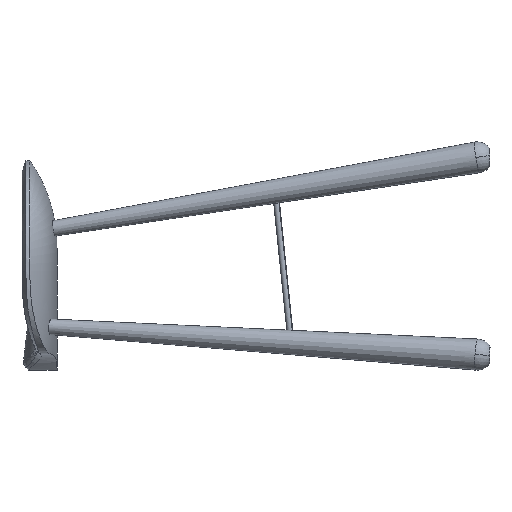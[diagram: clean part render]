
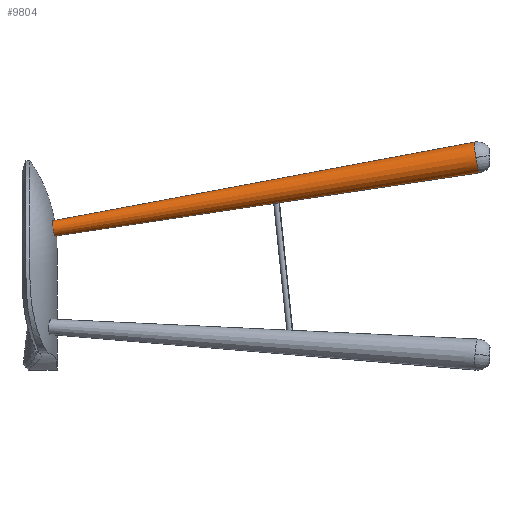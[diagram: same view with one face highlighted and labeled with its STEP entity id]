
A CAD part, left-side view. The second image highlights one B-rep face of the part: STEP entity #9804.
In plain terms, the highlighted conical face has half-angle 1.041 degrees and reference radius 25.396 mm.
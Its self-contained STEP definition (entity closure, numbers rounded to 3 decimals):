
#343 = CARTESIAN_POINT ( 'NONE',  ( -99.477, 4.852, 220.756 ) ) ;
#353 = ORIENTED_EDGE ( 'NONE', *, *, #4529, .T. ) ;
#621 = CARTESIAN_POINT ( 'NONE',  ( -96.606, 4.406, 219.15 ) ) ;
#689 = CARTESIAN_POINT ( 'NONE',  ( -99.458, 8.23, 240.612 ) ) ;
#766 = CARTESIAN_POINT ( 'NONE',  ( -97.352, 4.51, 219.492 ) ) ;
#843 = CARTESIAN_POINT ( 'NONE',  ( -95.02, 8.261, 242.81 ) ) ;
#1077 = EDGE_CURVE ( 'NONE', #7845, #1638, #4503, .T. ) ;
#1343 = CARTESIAN_POINT ( 'NONE',  ( -129.319, -679.325, 371.446 ) ) ;
#1437 = EDGE_LOOP ( 'NONE', ( #9991, #7982, #8868, #353, #2449 ) ) ;
#1488 = CARTESIAN_POINT ( 'NONE',  ( -101.249, 8.061, 238.91 ) ) ;
#1638 = VERTEX_POINT ( 'NONE', #1343 ) ;
#1660 = LINE ( 'NONE', #2074, #11224 ) ;
#1753 = CARTESIAN_POINT ( 'NONE',  ( -102.043, 5.444, 223.387 ) ) ;
#1952 = DIRECTION ( 'NONE',  ( 0., -0.165, -0.986 ) ) ;
#2074 = CARTESIAN_POINT ( 'NONE',  ( -129.319, -679.325, 371.446 ) ) ;
#2207 = LINE ( 'NONE', #10236, #8845 ) ;
#2449 = ORIENTED_EDGE ( 'NONE', *, *, #1077, .T. ) ;
#3065 = CARTESIAN_POINT ( 'NONE',  ( -92.574, 8.128, 243.264 ) ) ;
#3355 = CARTESIAN_POINT ( 'NONE',  ( -129.319, -683.525, 346.4 ) ) ;
#3777 = CARTESIAN_POINT ( 'NONE',  ( -98.42, 8.273, 241.31 ) ) ;
#3798 = CONICAL_SURFACE ( 'NONE', #6444, 25.396, 0.018 ) ;
#4052 = CARTESIAN_POINT ( 'NONE',  ( -102.027, 7.944, 237.935 ) ) ;
#4133 = CARTESIAN_POINT ( 'NONE',  ( -103.106, 7.71, 236.189 ) ) ;
#4200 = CARTESIAN_POINT ( 'NONE',  ( -104.393, 6.966, 231.466 ) ) ;
#4503 = CIRCLE ( 'NONE', #12836, 25.396 ) ;
#4529 = EDGE_CURVE ( 'NONE', #8735, #7845, #12644, .T. ) ;
#5168 = CARTESIAN_POINT ( 'NONE',  ( -91.747, 3.925, 218.265 ) ) ;
#5340 = CARTESIAN_POINT ( 'NONE',  ( -93.393, 8.184, 243.173 ) ) ;
#5412 = CARTESIAN_POINT ( 'NONE',  ( -95.831, 4.311, 218.882 ) ) ;
#5491 = CARTESIAN_POINT ( 'NONE',  ( -96.587, 8.297, 242.277 ) ) ;
#5796 = CARTESIAN_POINT ( 'NONE',  ( -95.04, 4.221, 218.652 ) ) ;
#6109 = CARTESIAN_POINT ( 'NONE',  ( -101.796, 5.375, 223.059 ) ) ;
#6373 = CARTESIAN_POINT ( 'NONE',  ( -101.267, 5.237, 222.426 ) ) ;
#6444 = AXIS2_PLACEMENT_3D ( 'NONE', #13704, #11137, #12335 ) ;
#6537 = CARTESIAN_POINT ( 'NONE',  ( -103.119, 5.799, 225.114 ) ) ;
#6612 = CARTESIAN_POINT ( 'NONE',  ( -95.811, 8.283, 242.562 ) ) ;
#6996 = CARTESIAN_POINT ( 'NONE',  ( -129.319, -683.525, 346.4 ) ) ;
#7525 = CARTESIAN_POINT ( 'NONE',  ( -104.31, 7.102, 232.278 ) ) ;
#7668 = CARTESIAN_POINT ( 'NONE',  ( -103.594, 6.019, 226.245 ) ) ;
#7724 = DIRECTION ( 'NONE',  ( 0.054, 0.985, -0.165 ) ) ;
#7750 = CARTESIAN_POINT ( 'NONE',  ( -101.778, 7.986, 238.269 ) ) ;
#7845 = VERTEX_POINT ( 'NONE', #10125 ) ;
#7982 = ORIENTED_EDGE ( 'NONE', *, *, #13373, .T. ) ;
#8037 = DIRECTION ( 'NONE',  ( -0.054, -0.988, 0.147 ) ) ;
#8364 = CARTESIAN_POINT ( 'NONE',  ( -104.068, 7.296, 233.477 ) ) ;
#8635 = CARTESIAN_POINT ( 'NONE',  ( -103.583, 7.541, 235.051 ) ) ;
#8708 = CARTESIAN_POINT ( 'NONE',  ( -100.97, 8.095, 239.215 ) ) ;
#8735 = VERTEX_POINT ( 'NONE', #14734 ) ;
#8774 = CARTESIAN_POINT ( 'NONE',  ( -104.314, 6.535, 229.005 ) ) ;
#8845 = VECTOR ( 'NONE', #8037, 1000. ) ;
#8868 = ORIENTED_EDGE ( 'NONE', *, *, #12178, .T. ) ;
#9088 = DIRECTION ( 'NONE',  ( 0., -0.165, -0.986 ) ) ;
#9167 = VERTEX_POINT ( 'NONE', #5168 ) ;
#9256 = VERTEX_POINT ( 'NONE', #11986 ) ;
#9268 = EDGE_CURVE ( 'NONE', #9256, #1638, #1660, .T. ) ;
#9287 = B_SPLINE_CURVE_WITH_KNOTS ( 'NONE', 3,
 ( #12217, #3065, #5340, #14400, #843, #6612, #5491, #11022, #12146, #3777, #689, #9887, #8708, #1488, #7750, #4052, #14323, #4133, #8635, #14470, #12300, #8364, #7525, #4200, #13246, #8774, #10941, #12072, #11179, #7668, #6537, #12895, #1753, #6109, #6373, #10654, #11096, #343, #9740, #9963, #766, #621, #5412, #5796, #13734, #14848, #10177, #13652 ),
 .UNSPECIFIED., .F., .F.,
 ( 4, 2, 2, 1, 2, 2, 2, 2, 2, 2, 2, 2, 2, 2, 2, 2, 2, 2, 2, 2, 2, 1, 2, 2, 4 ),
 ( 0.04, 0.042, 0.043, 0.045, 0.046, 0.047, 0.05, 0.051, 0.052, 0.055, 0.056, 0.057, 0.06, 0.062, 0.063, 0.064, 0.067, 0.068, 0.069, 0.072, 0.073, 0.074, 0.076, 0.077, 0.079 ),
 .UNSPECIFIED. ) ;
#9740 = CARTESIAN_POINT ( 'NONE',  ( -98.442, 4.676, 220.08 ) ) ;
#9804 = ADVANCED_FACE ( 'NONE', ( #13463 ), #3798, .T. ) ;
#9887 = CARTESIAN_POINT ( 'NONE',  ( -100.095, 8.185, 240.088 ) ) ;
#9963 = CARTESIAN_POINT ( 'NONE',  ( -98.082, 4.619, 219.871 ) ) ;
#9991 = ORIENTED_EDGE ( 'NONE', *, *, #9268, .F. ) ;
#10125 = CARTESIAN_POINT ( 'NONE',  ( -154.678, -682.181, 346.175 ) ) ;
#10177 = CARTESIAN_POINT ( 'NONE',  ( -92.581, 3.985, 218.255 ) ) ;
#10236 = CARTESIAN_POINT ( 'NONE',  ( -129.319, -687.726, 321.354 ) ) ;
#10654 = CARTESIAN_POINT ( 'NONE',  ( -100.989, 5.17, 222.125 ) ) ;
#10941 = CARTESIAN_POINT ( 'NONE',  ( -104.074, 6.315, 227.811 ) ) ;
#10964 = AXIS2_PLACEMENT_3D ( 'NONE', #3355, #7724, #1952 ) ;
#11022 = CARTESIAN_POINT ( 'NONE',  ( -97.332, 8.295, 241.92 ) ) ;
#11096 = CARTESIAN_POINT ( 'NONE',  ( -100.114, 4.975, 221.268 ) ) ;
#11137 = DIRECTION ( 'NONE',  ( -0.054, -0.985, 0.165 ) ) ;
#11179 = CARTESIAN_POINT ( 'NONE',  ( -103.735, 6.094, 226.634 ) ) ;
#11224 = VECTOR ( 'NONE', #12455, 1000. ) ;
#11986 = CARTESIAN_POINT ( 'NONE',  ( -91.75, 8.055, 243.277 ) ) ;
#12072 = CARTESIAN_POINT ( 'NONE',  ( -103.975, 6.242, 227.416 ) ) ;
#12146 = CARTESIAN_POINT ( 'NONE',  ( -98.061, 8.283, 241.526 ) ) ;
#12178 = EDGE_CURVE ( 'NONE', #9167, #8735, #2207, .T. ) ;
#12217 = CARTESIAN_POINT ( 'NONE',  ( -91.75, 8.055, 243.277 ) ) ;
#12300 = CARTESIAN_POINT ( 'NONE',  ( -103.967, 7.359, 233.873 ) ) ;
#12335 = DIRECTION ( 'NONE',  ( 0., -0.165, -0.986 ) ) ;
#12455 = DIRECTION ( 'NONE',  ( -0.054, -0.982, 0.183 ) ) ;
#12644 = CIRCLE ( 'NONE', #10964, 25.396 ) ;
#12836 = AXIS2_PLACEMENT_3D ( 'NONE', #6996, #14857, #9088 ) ;
#12895 = CARTESIAN_POINT ( 'NONE',  ( -102.731, 5.655, 224.399 ) ) ;
#13246 = CARTESIAN_POINT ( 'NONE',  ( -104.395, 6.68, 229.818 ) ) ;
#13373 = EDGE_CURVE ( 'NONE', #9256, #9167, #9287, .T. ) ;
#13463 = FACE_OUTER_BOUND ( 'NONE', #1437, .T. ) ;
#13652 = CARTESIAN_POINT ( 'NONE',  ( -91.747, 3.925, 218.265 ) ) ;
#13704 = CARTESIAN_POINT ( 'NONE',  ( -129.319, -683.525, 346.4 ) ) ;
#13734 = CARTESIAN_POINT ( 'NONE',  ( -94.635, 4.178, 218.556 ) ) ;
#14323 = CARTESIAN_POINT ( 'NONE',  ( -102.717, 7.811, 236.91 ) ) ;
#14400 = CARTESIAN_POINT ( 'NONE',  ( -94.614, 8.245, 242.916 ) ) ;
#14470 = CARTESIAN_POINT ( 'NONE',  ( -103.725, 7.482, 234.66 ) ) ;
#14734 = CARTESIAN_POINT ( 'NONE',  ( -129.319, -687.726, 321.354 ) ) ;
#14848 = CARTESIAN_POINT ( 'NONE',  ( -93.409, 4.056, 218.327 ) ) ;
#14857 = DIRECTION ( 'NONE',  ( 0.054, 0.985, -0.165 ) ) ;
